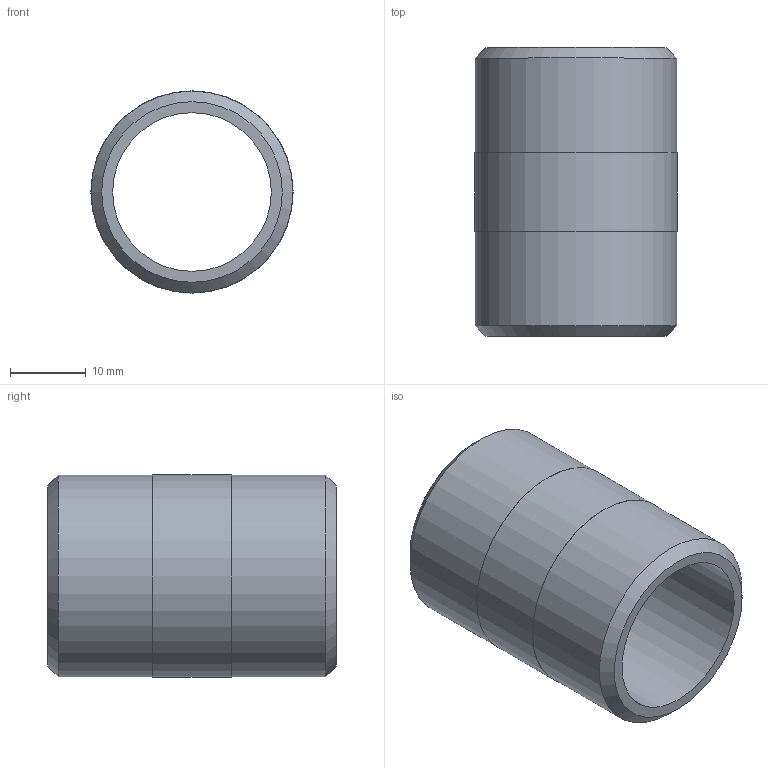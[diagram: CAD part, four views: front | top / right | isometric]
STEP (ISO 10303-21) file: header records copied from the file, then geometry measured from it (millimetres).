
FILE_DESCRIPTION(/* description */ (''),/* implementation_level */ '2;1');
FILE_NAME(/* name */ 'C:/Users/drich/Desktop/SSPN34-1-1_2 v1.step',/* time_stamp */ '2020-01-04T13:40:14-06:00',/* author */ (''),/* organization */ (''),/* preprocessor_version */ 'ST-DEVELOPER v18',/* originating_system */ 'Autodesk Translation Framework v8.12.0.6',/* authorisation */ '');
FILE_SCHEMA (('AUTOMOTIVE_DESIGN { 1 0 10303 214 3 1 1 }'));
Length unit declared in the file: inch
Products named in the file (1): SSPN34-1-1_2
Bounding box: 26.67 x 38.1 x 26.67 mm (x, y, z)
Volume: 7960 mm3; surface area: 5980.3 mm2
Topology: 1 solids, 1 shells, 10 faces, 24 edges, 18 vertices
Faces by surface type: cylinder 4, plane 4, cone 2
Full cylindrical faces by diameter (mm): 20.93 x1, 26.619 x2, 26.67 x1
Entity records: 353 total; most frequent: DIRECTION 64, CARTESIAN_POINT 53, ORIENTED_EDGE 48, AXIS2_PLACEMENT_3D 29, EDGE_CURVE 24, CIRCLE 18, VERTEX_POINT 18, EDGE_LOOP 14
